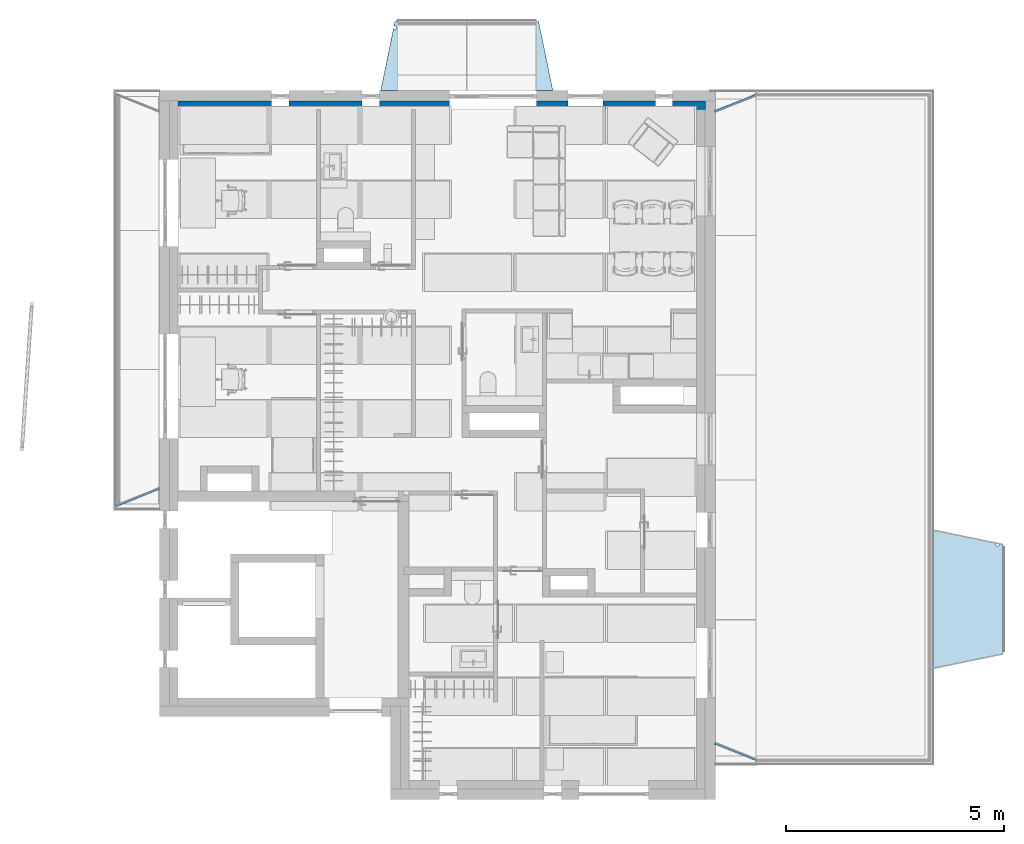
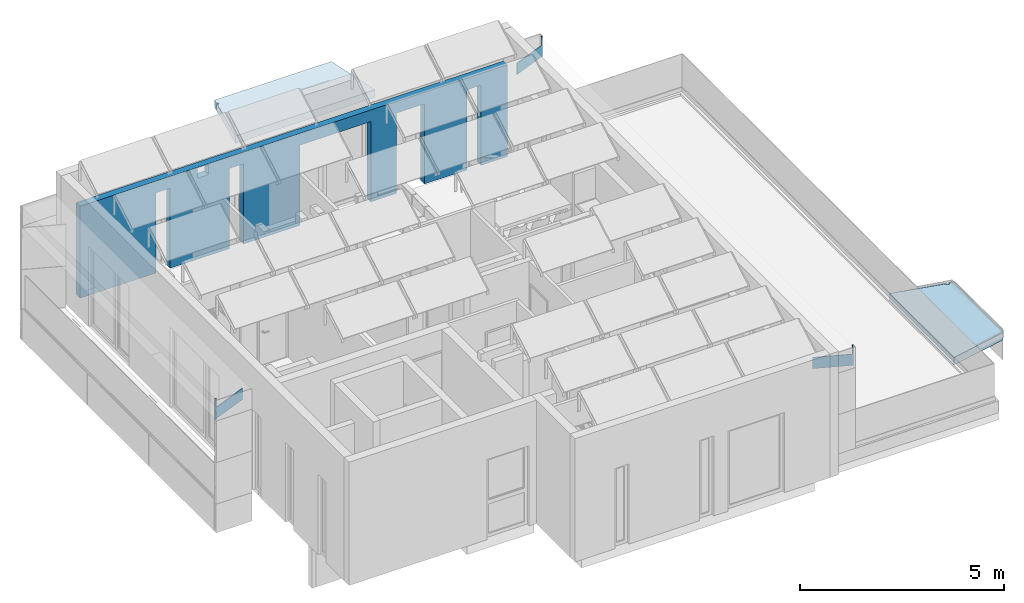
# One storey, part 19 of 57: 3 building element parts, 2 roofs, 1 wall, 3 elements without a shape of their own.
"""IFC2X3 building model written with IfcOpenShell, lengths in millimetres."""

from ifc_helpers import new_model, entity, si_unit, converted_unit, direction, frame, origin, place, context, subcontext, project, spatial, faceted_brep, material, layer, layer_set, type_object, element, aggregate, save


model = new_model("IFC2X3")

# Units and contexts
model_context = context("Model", 3, precision=0.01, world=origin(), true_north=direction((6.123233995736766e-17, 1.0)))
plan_context = context("Plan", 3, precision=0.01, world=origin(), true_north=direction((6.123233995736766e-17, 1.0)))
body_context = subcontext(model_context, "Body", "Model", "MODEL_VIEW")
ifc_project = project(units=[si_unit("LENGTHUNIT", "METRE", prefix="MILLI"), converted_unit("PLANEANGLEUNIT", "DEGREE", entity("IfcPlaneAngleMeasure", 0.017453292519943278), si_unit("PLANEANGLEUNIT", "RADIAN"), dimensions=[0, 0, 0, 0, 0, 0, 0]), si_unit("AREAUNIT", "SQUARE_METRE")], contexts=[model_context, plan_context])

# Site, building, storey
site_placement = place(None, origin())
site = spatial("IfcSite", under=ifc_project, at=site_placement, Name="Default", CompositionType="ELEMENT")
building_placement = place(site_placement, origin())
building = spatial("IfcBuilding", under=site, at=building_placement, CompositionType="ELEMENT")
storey_placement = place(building_placement, frame((0.0, 0.0, 12811.000000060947)))
storey = spatial("IfcBuildingStorey", under=building, at=storey_placement, Name="5K", CompositionType="ELEMENT", Elevation=12811.000000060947)

# Wall
ifc_material_1 = material(Name="_K. Väisviimistlus. Krohv. Valge")
ifc_layer_1 = layer(ifc_material_1, 5.0)
ifc_material_2 = material(Name="_K. Müüritis. Väikeplokk. Betoon-õõnesplokk")
ifc_layer_2 = layer(ifc_material_2, 190.00000000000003)
ifc_layer_3 = layer(ifc_material_1, 5.0)
ifc_layer_set_1 = layer_set([ifc_layer_1, ifc_layer_2, ifc_layer_3], Name="Basic Wall:SS-01. 190")
wall_type_1 = type_object("IfcWallType", Name="Basic Wall:SS-01. 190", PredefinedType="STANDARD", material=ifc_layer_set_1)
wall_1_placement = place(storey_placement, frame((0.0, 15500.0, 0.0)))
element("IfcWall", 1, at=wall_1_placement, inside=storey, type_object=wall_type_1, Name="Basic Wall:SS-01. 190", ObjectType="Basic Wall:SS-01. 190", context=body_context, shape_type="Brep", body=[
    faceted_brep([(12100.0, -100.0, 2749.998712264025), (12090.0, -100.0, 2749.998712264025), (11900.0, -100.0, 2749.998712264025), (5444.0, -100.0, 2749.998712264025), (5352.0, -100.0, 2749.998712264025), (3272.0, -100.0, 2749.998712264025), (3180.0, -100.0, 2749.998712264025), (0.0, -100.0, 2749.998712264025), (0.0, -100.0, 0.0), (2150.0, -100.0, 0.0), (2150.0, -100.0, 2400.0), (2550.0, -100.0, 2400.0), (2550.0, -100.0, 0.0), (4225.0, -100.0, 0.0), (4225.0, -100.0, 2400.0), (4625.0, -100.0, 2400.0), (4625.0, -100.0, 0.0), (6230.0, -100.0, 0.0), (6230.0, -100.0, 2400.0), (8230.0, -100.0, 2400.0), (8230.0, -100.0, 0.0), (8950.0, -100.0, 0.0), (8950.0, -100.0, 2400.0), (9750.0, -100.0, 2400.0), (9750.0, -100.0, 0.0), (10950.0, -100.0, 0.0), (10950.0, -100.0, 2400.0), (11350.0, -100.0, 2400.0), (11350.0, -100.0, 0.0), (11900.0, -100.0, 0.0), (12090.0, -100.0, 0.0), (12100.0, -100.0, 0.0), (3630.0, -100.0, 2424.9999999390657), (3330.0, -100.0, 2424.9999999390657), (3330.0, -100.0, 2724.9999999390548), (3630.0, -100.0, 2724.9999999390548), (0.0, 90.0, 0.0), (2150.0, 90.0, 0.0), (12100.0, 90.0, 2749.998712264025), (0.0, 90.0, 2749.998712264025), (12100.0, 90.0, 0.0), (11350.0, 90.0, 0.0), (11350.0, 90.0, 2400.0), (10950.0, 90.0, 2400.0), (10950.0, 90.0, 0.0), (9750.0, 90.0, 0.0), (9750.0, 90.0, 2400.0), (8950.0, 90.0, 2400.0), (8950.0, 90.0, 0.0), (8230.0, 90.0, 0.0), (8230.0, 90.0, 2400.0), (6230.0, 90.0, 2400.0), (6230.0, 90.0, 0.0), (4625.0, 90.0, 0.0), (4625.0, 90.0, 2400.0), (4225.0, 90.0, 2400.0), (4225.0, 90.0, 0.0), (2550.0, 90.0, 0.0), (2550.0, 90.0, 2400.0), (2150.0, 90.0, 2400.0), (3330.0, 90.0, 2424.9999999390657), (3630.0, 90.0, 2424.999999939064), (3630.0, 90.0, 2724.9999999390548), (3330.0, 90.0, 2724.9999999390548)], [[[0, 1, 2, 3, 4, 5, 6, 7, 8, 9, 10, 11, 12, 13, 14, 15, 16, 17, 18, 19, 20, 21, 22, 23, 24, 25, 26, 27, 28, 29, 30, 31], [32, 33, 34, 35]], [[9, 8, 36, 37]], [[7, 6, 5, 4, 3, 2, 1, 0, 38, 39]], [[8, 7, 39, 36]], [[0, 31, 40, 38]], [[37, 36, 39, 38, 40, 41, 42, 43, 44, 45, 46, 47, 48, 49, 50, 51, 52, 53, 54, 55, 56, 57, 58, 59], [60, 61, 62, 63]], [[28, 27, 42, 41]], [[27, 26, 43, 42]], [[26, 25, 44, 43]], [[24, 23, 46, 45]], [[23, 22, 47, 46]], [[22, 21, 48, 47]], [[20, 19, 50, 49]], [[19, 18, 51, 50]], [[16, 15, 54, 53]], [[15, 14, 55, 54]], [[14, 13, 56, 55]], [[12, 11, 58, 57]], [[11, 10, 59, 58]], [[10, 9, 37, 59]], [[18, 17, 52, 51]], [[33, 32, 61, 60]], [[32, 35, 62, 61]], [[34, 33, 60, 63]], [[35, 34, 63, 62]], [[13, 12, 57, 56]], [[17, 16, 53, 52]], [[21, 20, 49, 48]], [[25, 24, 45, 44]], [[31, 30, 29, 28, 41, 40]]]),
])

# Roofs
ifc_material_3 = material(Name="_K. Katusekate. Rullmaterjal. SBS")
ifc_layer_4 = layer(ifc_material_3, 10.0)
ifc_material_4 = material(Name="_K. Ehitusplaat. Vineer. Veekindel")
ifc_layer_5 = layer(ifc_material_4, 15.0)
ifc_material_5 = material(Name="_K. Õhk. Roov. Fassaadikatte alusroov. Horisontaalne. 25 mm")
ifc_layer_6 = layer(ifc_material_5, 100.0)
ifc_layer_7 = layer(ifc_material_5, 100.0)
ifc_layer_set_2 = layer_set([ifc_layer_4, ifc_layer_5, ifc_layer_6, ifc_layer_7], Name="Basic Roof:KL-06")
type_product = type_object("IfcTypeProduct", Name="Basic Roof:KL-06")
roof_1_placement = place(storey_placement, frame((4648.567188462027, 15830.00903969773, 2740.0)))
element("IfcRoof", 2, at=roof_1_placement, inside=storey, type_object=type_product, material=ifc_layer_set_2, Name="Basic Roof:KL-06", ObjectType="Basic Roof:KL-06", ShapeType="NOTDEFINED", context=body_context, shape_type="Brep", body=[
    faceted_brep([(0.0, 0.0, 225.0), (295.61465071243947, 1433.381507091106, 225.0), (295.61465071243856, 1433.3815070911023, 199.1785106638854), (295.61465071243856, 1433.3815070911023, 173.3570213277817), (295.61465071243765, 1433.3815070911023, 121.71404265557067), (295.61465071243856, 1433.3815070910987, 0.0), (0.0, 0.0, 0.0), (327.298099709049, 1587.008770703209, 225.0), (327.29809970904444, 1587.008770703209, 0.0), (304.4113235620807, 1476.0349688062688, 0.0), (304.41132356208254, 1476.0349688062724, 121.71396435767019), (304.41132356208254, 1476.0349688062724, 173.35698217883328), (304.41132356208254, 1476.0349688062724, 199.17849108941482), (304.4113235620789, 1476.0349688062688, 225.0), (310.6815440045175, 1480.2155217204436, 194.99992369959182), (314.7739957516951, 1482.024552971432, 194.99992369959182), (306.8533211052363, 1482.0252711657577, 194.99992369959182), (306.85333118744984, 1477.89915775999, 194.99992369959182), (366.85626013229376, 1482.0198304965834, 194.99992369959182), (338.9307614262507, 1482.0223625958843, 194.99992369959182), (346.499229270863, 1478.137105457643, 194.99992369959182), (352.90672218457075, 1472.5405919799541, 194.99992369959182), (357.77466493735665, 1465.5634821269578, 194.99992369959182), (360.81544386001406, 1457.6180059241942, 194.99992369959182), (361.84939998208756, 1449.1736075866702, 194.99992369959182), (360.99057500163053, 1441.4677547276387, 194.99992369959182), (358.45624750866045, 1434.1400720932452, 194.99992369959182), (354.3707914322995, 1427.5501709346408, 194.99992369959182), (348.9347034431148, 1422.0214553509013, 194.99992369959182), (366.85081949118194, 1422.0198307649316, 194.99992369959), (305.8486709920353, 1477.173060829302, 195.09814515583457), (306.3477863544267, 1477.540557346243, 195.0493487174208), (306.5579812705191, 1420.6559231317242, 195.02881245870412), (300.90067335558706, 1425.6860877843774, 195.58190178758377), (296.4572932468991, 1431.815040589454, 196.01631038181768), (296.02601925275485, 1432.5929200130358, 210.7281633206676), (305.1225440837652, 1476.61342778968, 210.28265403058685), (3953.276833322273, 0.0, 0.0), (3953.276833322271, 0.0, 225.0), (300.3331339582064, 1426.3287474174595, 0.0), (306.6102433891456, 1420.618808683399, 0.0), (314.0770104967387, 1416.5873211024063, 0.0), (322.29453869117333, 1414.4712555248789, 0.0), (330.77980164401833, 1414.3949942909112, 0.0), (339.03403557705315, 1416.363020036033, 0.0), (346.5720565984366, 1420.2596522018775, 0.0), (352.9507798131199, 1425.8558467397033, 0.0), (357.79526385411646, 1432.8226593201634, 0.0), (360.820749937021, 1440.750580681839, 0.0), (361.84939998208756, 1449.1736075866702, 0.0), (360.74519793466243, 1457.8956991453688, 0.0), (357.50226391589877, 1466.067450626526, 0.0), (352.3252181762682, 1473.1732469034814, 0.0), (345.54071811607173, 1478.764731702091, 0.0), (337.57684709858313, 1482.489097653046, 0.0), (328.9361035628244, 1484.1113474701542, 0.0), (320.16369474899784, 1483.5291216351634, 0.0), (311.8131356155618, 1480.7791570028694, 0.0), (3625.9843654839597, 1587.0008138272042, 0.0), (3625.9843654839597, 1587.0008138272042, 225.0), (322.7513415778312, 1483.9328641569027, 195.54543961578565), (330.9537617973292, 1483.932120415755, 195.54543961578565), (341.2039512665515, 1417.2526605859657, 195.10054247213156), (332.50639448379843, 1414.633798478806, 195.15580744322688), (323.42782904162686, 1414.3412540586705, 195.16199641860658), (314.57971249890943, 1416.3947307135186, 195.1186925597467)], [[[0, 1, 2, 3, 4, 5, 6]], [[7, 8, 9, 10, 11, 12, 13]], [[14, 15, 16, 17]], [[18, 19, 20, 21, 22, 23, 24, 25, 26, 27, 28, 29]], [[30, 31, 17, 16]], [[0, 32, 33, 34]], [[35, 1, 0, 34]], [[16, 7, 13, 36, 30]], [[0, 6, 37, 38]], [[39, 40, 41, 42, 43, 44, 45, 46, 47, 48, 49, 50, 51, 52, 53, 54, 55, 56, 57, 9, 8, 58, 37, 6, 5]], [[38, 37, 58, 59]], [[59, 58, 8, 7]], [[38, 59, 29]], [[59, 7, 18]], [[18, 7, 16, 15, 60, 61, 19]], [[59, 18, 29]], [[38, 29, 0]], [[0, 29, 28, 62, 63, 64, 65, 32]], [[4, 33, 39]], [[39, 33, 40]], [[42, 41, 65]], [[32, 41, 40]], [[43, 42, 64]], [[39, 5, 4]], [[34, 2, 35]], [[34, 4, 3, 2]], [[65, 41, 32]], [[2, 1, 35]], [[65, 64, 42]], [[33, 4, 34]], [[33, 32, 40]], [[64, 63, 43]], [[28, 46, 45]], [[62, 45, 44]], [[25, 49, 48]], [[26, 48, 47]], [[27, 47, 46]], [[63, 62, 44]], [[28, 45, 62]], [[26, 47, 27]], [[48, 26, 25]], [[27, 46, 28]], [[24, 49, 25]], [[43, 63, 44]], [[50, 49, 23]], [[50, 22, 51]], [[53, 52, 20]], [[21, 52, 51]], [[54, 53, 19]], [[49, 24, 23]], [[50, 23, 22]], [[52, 21, 20]], [[53, 20, 19]], [[21, 51, 22]], [[19, 61, 54]], [[56, 55, 60]], [[57, 56, 15]], [[15, 56, 60]], [[14, 10, 57]], [[10, 9, 57]], [[15, 14, 57]], [[61, 60, 55]], [[31, 30, 11]], [[14, 17, 10]], [[36, 12, 30]], [[31, 11, 10]], [[36, 13, 12]], [[30, 12, 11]], [[10, 17, 31]], [[54, 61, 55]]]),
])
roof_2_placement = place(storey_placement, frame((17330.009039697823, 2580.14256645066, -296.0)))
element("IfcRoof", 3, at=roof_2_placement, inside=storey, type_object=type_product, material=ifc_layer_set_2, Name="Basic Roof:KL-06", ObjectType="Basic Roof:KL-06", ShapeType="NOTDEFINED", context=body_context, shape_type="Brep", body=[
    faceted_brep([(0.0, 3163.0602448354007, 225.0), (1450.5995648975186, 2863.8946133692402, 225.0), (1450.5995648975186, 2863.894613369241, 199.17852054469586), (1450.5995648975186, 2863.894613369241, 173.35704108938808), (1450.5995648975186, 2863.894613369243, 121.71397943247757), (1450.5995648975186, 2863.894613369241, 0.0), (0.0, 3163.0602448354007, 0.0), (1587.0087707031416, 2835.7621451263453, 225.0), (1587.0087707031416, 2835.7621451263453, 0.0), (1500.4230902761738, 2853.6192163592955, 0.0), (1500.4230902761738, 2853.6192163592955, 121.71398932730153), (1500.4230902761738, 2853.6192163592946, 173.35699466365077), (1500.4230902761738, 2853.6192163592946, 199.1784973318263), (1500.4230902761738, 2853.6192163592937, 212.08924866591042), (1500.4230902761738, 2853.6192163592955, 225.0), (1449.9661913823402, 2863.441185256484, 210.47830893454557), (1449.3430654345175, 2862.973774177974, 195.66149721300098), (1501.090079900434, 2852.494189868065, 200.44788189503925), (1500.7618405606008, 2853.059818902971, 212.82835983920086), (1445.766665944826, 2859.8187523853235, 195.3530452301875), (1444.3526207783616, 2858.301168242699, 0.0), (1442.6523771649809, 2856.206827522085, 194.99992369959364), (1436.457004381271, 2842.659168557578, 194.99992369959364), (1435.6552437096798, 2835.210650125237, 0.0), (1436.6596856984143, 2843.5354345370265, 0.0), (1438.8255538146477, 2849.766433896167, 194.99992369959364), (1439.6153600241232, 2851.382403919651, 0.0), (1435.6552437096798, 2835.210650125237, 194.99992369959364), (0.0, 0.0, 0.0), (0.0, 0.0, 225.0), (1445.906506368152, 2810.4619127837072, 0.0), (1453.1552437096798, 2804.8997609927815, 0.0), (1461.5965771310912, 2801.4032462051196, 0.0), (1470.6552437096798, 2800.210650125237, 0.0), (1479.7139102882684, 2801.4032462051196, 0.0), (1488.1552437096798, 2804.8997609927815, 0.0), (1495.4039810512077, 2810.4619127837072, 0.0), (1500.9661328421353, 2817.710650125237, 0.0), (1504.4626476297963, 2826.1519835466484, 0.0), (1505.6552437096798, 2835.210650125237, 0.0), (1505.0604943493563, 2841.6355025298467, 0.0), (1503.296459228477, 2847.8420019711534, 0.0), (1587.0027199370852, 327.29286094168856, 0.0), (1436.8478397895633, 2826.1519835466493, 0.0), (1440.3443545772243, 2817.710650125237, 0.0), (1587.0027199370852, 327.29286094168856, 225.0), (1422.0198307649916, 2796.209425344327, 194.99992369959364), (1482.0198304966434, 2796.203984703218, 194.99992369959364), (1482.0203657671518, 2802.1072666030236, 194.99992369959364), (1473.906411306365, 2800.361978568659, 194.99992369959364), (1465.6096422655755, 2800.5762466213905, 194.99992369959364), (1457.5965896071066, 2802.738022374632, 194.99992369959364), (1450.31783079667, 2806.7257482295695, 194.99992369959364), (1444.1826536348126, 2812.3151926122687, 194.99992369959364), (1439.5360418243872, 2819.1920586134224, 194.99992369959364), (1436.639276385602, 2826.9696570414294, 194.99992369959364), (1422.0252711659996, 2856.2067771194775, 194.99992369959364), (1503.6009887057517, 2847.024958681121, 201.16552803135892), (1505.137855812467, 2841.2064371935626, 201.604846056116), (1505.6552437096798, 2835.210650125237, 201.75284752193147), (1504.5842862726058, 2826.6187893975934, 201.44703883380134), (1501.436953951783, 2818.5527296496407, 200.54788228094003), (1496.405855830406, 2811.5060941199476, 199.11040405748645), (1489.7988828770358, 2805.9101197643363, 197.22257433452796), (1505.6552437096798, 2835.210650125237, 98.46683685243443), (1504.3218044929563, 2844.7794893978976, 93.0071304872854)], [[[0, 1, 2, 3, 4, 5, 6]], [[7, 8, 9, 10, 11, 12, 13, 14]], [[15, 1, 0, 16]], [[17, 7, 14, 18]], [[4, 19, 20]], [[21, 20, 19]], [[4, 16, 19]], [[4, 20, 5]], [[16, 2, 15]], [[16, 4, 3, 2]], [[2, 1, 15]], [[22, 23, 24]], [[25, 24, 26]], [[26, 21, 25]], [[23, 22, 27]], [[22, 24, 25]], [[20, 21, 26]], [[0, 6, 28, 29]], [[30, 31, 32, 33, 34, 35, 36, 37, 38, 39, 40, 41, 9, 8, 42, 28, 6, 5, 20, 26, 24, 23, 43, 44]], [[29, 28, 42, 45]], [[45, 42, 8, 7]], [[29, 45, 46]], [[47, 48, 49, 50, 51, 52, 53, 54, 55, 27, 22, 25, 21, 56, 46]], [[45, 7, 47]], [[7, 17, 57, 58, 59, 60, 61, 62, 63, 48, 47]], [[45, 47, 46]], [[0, 56, 21, 19, 16]], [[29, 46, 0]], [[0, 46, 56]], [[54, 44, 43]], [[55, 43, 23]], [[51, 32, 31]], [[52, 31, 30]], [[53, 30, 44]], [[55, 23, 27]], [[54, 43, 55]], [[52, 30, 53]], [[31, 52, 51]], [[53, 44, 54]], [[32, 51, 50]], [[50, 33, 32]], [[48, 35, 34]], [[49, 34, 33]], [[62, 37, 36]], [[60, 39, 38]], [[61, 38, 37]], [[63, 36, 35]], [[34, 49, 48]], [[63, 35, 48]], [[61, 37, 62]], [[38, 61, 60]], [[62, 36, 63]], [[60, 59, 64, 39]], [[50, 49, 33]], [[65, 40, 64]], [[40, 39, 64]], [[65, 64, 58]], [[18, 12, 17]], [[13, 12, 18, 14]], [[57, 65, 58]], [[41, 10, 9]], [[10, 65, 57]], [[57, 11, 10]], [[17, 12, 11]], [[57, 17, 11]], [[64, 59, 58]], [[65, 10, 41]], [[41, 40, 65]]]),
])

# Wall, building element part
wall_type_2 = type_object("IfcWallType", Name="Basic Wall:VS-komposiit", PredefinedType="STANDARD")
wall_2_placement = place(storey_placement, frame((12333.714333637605, 848.9615262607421, -20.0), z_axis=(0.0, 0.0, 1.0), x_axis=(0.9284596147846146, -0.3714333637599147, 0.0)))
wall_2 = element("IfcWall", 4, at=wall_2_placement, inside=storey, type_object=wall_type_2, Name="Basic Wall:VS-komposiit", ObjectType="Basic Wall:VS-komposiit")
building_element_part_1_placement = place(wall_2_placement, frame((139.83535571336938, -359.5417837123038, 2420.0)))
building_element_part_1 = element("IfcBuildingElementPart", 5, at=building_element_part_1_placement, material=ifc_material_5, Name="Part", context=body_context, shape_type="Brep", body=[
    faceted_brep([(-139.83535571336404, 365.541783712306, 0.0), (867.3371075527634, 365.54178371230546, 0.0), (873.7379608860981, 349.5417837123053, 0.0), (-139.83535571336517, 349.5417837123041, 0.0), (-139.83535571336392, 365.5417837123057, 340.0), (833.9520343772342, 365.5417837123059, 340.0), (833.9520343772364, 365.54178371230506, 614.9999999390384), (867.3371075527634, 365.5417837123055, 614.9999999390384), (873.737960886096, 349.54178371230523, 614.9999999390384), (856.5051165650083, 349.54178371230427, 614.9999999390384), (840.3528877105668, 349.54178371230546, 614.9999999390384), (840.3528877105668, 349.5417837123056, 340.0), (-139.83535571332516, 349.541783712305, 340.0)], [[[0, 1, 2, 3]], [[4, 5, 6, 7, 1, 0]], [[8, 9, 10, 11, 12, 3, 2]], [[12, 4, 0, 3]], [[7, 6, 10, 9, 8]], [[6, 5, 11, 10]], [[5, 4, 12, 11]], [[7, 8, 2, 1]]]),
])
aggregate(wall_2, [building_element_part_1])

wall_3_placement = place(storey_placement, frame((12333.714333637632, 15351.038473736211, -20.0), z_axis=(0.0, 0.0, 1.0), x_axis=(0.9284596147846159, 0.3714333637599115, 0.0)))
wall_3 = element("IfcWall", 6, at=wall_3_placement, inside=storey, type_object=wall_type_2, Name="Basic Wall:VS-komposiit", ObjectType="Basic Wall:VS-komposiit")
building_element_part_2_placement = place(wall_3_placement, frame((-5.51777404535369, -3.792596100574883, 2420.0)))
building_element_part_2 = element("IfcBuildingElementPart", 7, at=building_element_part_2_placement, material=ifc_material_5, Name="Part", context=body_context, shape_type="Brep", body=[
    faceted_brep([(1012.6902373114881, -2.207403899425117, 0.0), (5.517774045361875, -2.207403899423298, 0.0), (5.517774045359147, 13.792596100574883, 0.0), (1019.0910906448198, 13.792596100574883, 0.0), (1012.6902373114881, -2.207403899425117, 614.9999999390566), (979.3051641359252, -2.207403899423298, 614.9999999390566), (979.3051641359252, -2.207403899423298, 340.0), (5.517774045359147, -2.207403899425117, 340.0), (5.517774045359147, 13.792596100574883, 340.0), (985.7060174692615, 13.792596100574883, 340.0), (985.7060174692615, 13.792596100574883, 614.9999999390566), (1001.8582463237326, 13.792596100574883, 614.9999999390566), (1019.0910906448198, 13.792596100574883, 614.9999999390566)], [[[0, 1, 2, 3]], [[4, 5, 6, 7, 1, 0]], [[8, 9, 10, 11, 12, 3, 2]], [[7, 8, 2, 1]], [[5, 4, 12, 11, 10]], [[6, 5, 10, 9]], [[7, 6, 9, 8]], [[12, 4, 0, 3]]]),
])
aggregate(wall_3, [building_element_part_2])

wall_4_placement = place(storey_placement, frame((-433.7143336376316, 6698.9415262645, -946.0), z_axis=(0.0, 0.0, 1.0), x_axis=(-0.9284596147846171, -0.37143336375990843, 0.0)))
wall_4 = element("IfcWall", 8, at=wall_4_placement, inside=storey, type_object=wall_type_2, Name="Basic Wall:VS-komposiit", ObjectType="Basic Wall:VS-komposiit")
building_element_part_3_placement = place(wall_4_placement, frame((1095.3626671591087, 10.0, 3346.0)))
building_element_part_3 = element("IfcBuildingElementPart", 9, at=building_element_part_3_placement, material=ifc_material_5, Name="Part", context=body_context, shape_type="Brep", body=[
    faceted_brep([(-6.400853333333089, -16.0, 0.0), (-1095.3626671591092, -16.0, 0.0), (-1095.3626671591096, 0.0, 0.0), (0.0, 0.0, 0.0), (-6.400853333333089, -16.0, 614.9999999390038), (-61.3305446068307, -16.0, 614.9999999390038), (-61.33054460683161, -16.0, 340.0), (-1095.3626671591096, -16.0, 340.0), (-1095.362667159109, 0.0, 340.0), (-54.929691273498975, 0.0, 340.0), (-54.929691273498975, 0.0, 614.9999999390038), (-17.232844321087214, 0.0, 614.9999999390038), (0.0, 0.0, 614.9999999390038)], [[[0, 1, 2, 3]], [[4, 5, 6, 7, 1, 0]], [[8, 9, 10, 11, 12, 3, 2]], [[7, 8, 2, 1]], [[5, 4, 12, 11, 10]], [[6, 5, 10, 9]], [[7, 6, 9, 8]], [[12, 4, 0, 3]]]),
])
aggregate(wall_4, [building_element_part_3])

save(model, "model.ifc")
